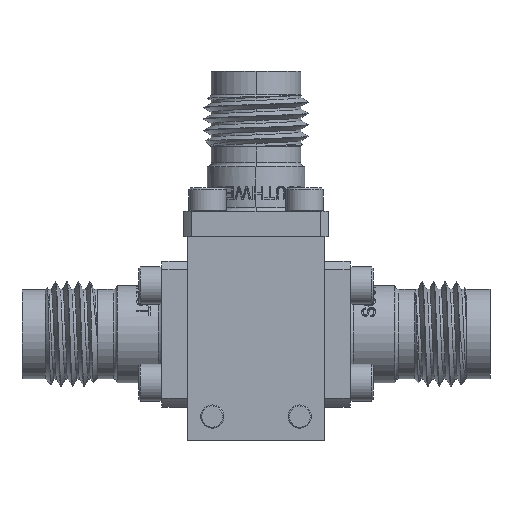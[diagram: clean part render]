
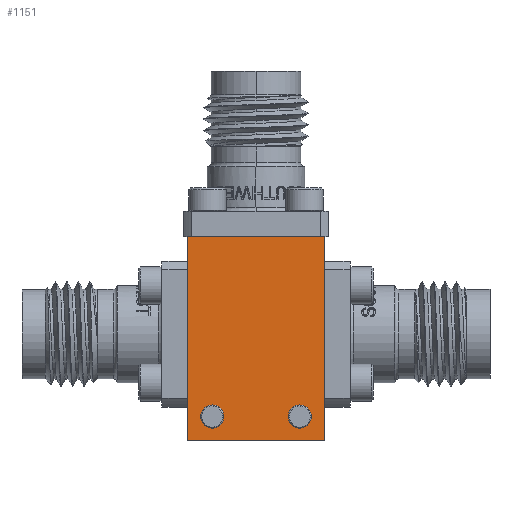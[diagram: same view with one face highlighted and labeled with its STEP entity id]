
A CAD part, front view. The second image highlights one B-rep face of the part: STEP entity #1151.
In plain terms, the highlighted planar face has unit normal (0, -1, 0).
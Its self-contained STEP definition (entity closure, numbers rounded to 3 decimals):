
#117 = LINE ( 'NONE', #969, #2592 ) ;
#231 = DIRECTION ( 'NONE',  ( 0., 1., 0. ) ) ;
#411 = VECTOR ( 'NONE', #7945, 1000. ) ;
#474 = ORIENTED_EDGE ( 'NONE', *, *, #14715, .T. ) ;
#956 = CARTESIAN_POINT ( 'NONE',  ( 7.353, -10.16, -12.516 ) ) ;
#969 = CARTESIAN_POINT ( 'NONE',  ( 0., -10.16, 0. ) ) ;
#1151 = ADVANCED_FACE ( 'NONE', ( #14349, #12983, #13059 ), #14202, .F. ) ;
#1197 = DIRECTION ( 'NONE',  ( 0., 0., 1. ) ) ;
#1275 = CARTESIAN_POINT ( 'NONE',  ( 0., -10.16, 0. ) ) ;
#1290 = CARTESIAN_POINT ( 'NONE',  ( 1.638, -10.16, -11.005 ) ) ;
#1385 = CIRCLE ( 'NONE', #6104, 0.756 ) ;
#1782 = ORIENTED_EDGE ( 'NONE', *, *, #7727, .T. ) ;
#2286 = VERTEX_POINT ( 'NONE', #956 ) ;
#2324 = EDGE_LOOP ( 'NONE', ( #13372, #5478 ) ) ;
#2592 = VECTOR ( 'NONE', #9562, 1000. ) ;
#2930 = VERTEX_POINT ( 'NONE', #8365 ) ;
#3533 = CIRCLE ( 'NONE', #14993, 0.756 ) ;
#3710 = EDGE_CURVE ( 'NONE', #5283, #12833, #9779, .T. ) ;
#4103 = VERTEX_POINT ( 'NONE', #7856 ) ;
#4366 = AXIS2_PLACEMENT_3D ( 'NONE', #12077, #231, #4957 ) ;
#4589 = CARTESIAN_POINT ( 'NONE',  ( 1.638, -10.16, -11.76 ) ) ;
#4957 = DIRECTION ( 'NONE',  ( 0., 0., 1. ) ) ;
#5090 = EDGE_LOOP ( 'NONE', ( #5731, #9114, #474, #13925 ) ) ;
#5283 = VERTEX_POINT ( 'NONE', #6241 ) ;
#5477 = LINE ( 'NONE', #8957, #13335 ) ;
#5478 = ORIENTED_EDGE ( 'NONE', *, *, #14357, .T. ) ;
#5702 = CARTESIAN_POINT ( 'NONE',  ( 7.353, -10.16, -11.76 ) ) ;
#5731 = ORIENTED_EDGE ( 'NONE', *, *, #3710, .F. ) ;
#5773 = VERTEX_POINT ( 'NONE', #1290 ) ;
#6086 = DIRECTION ( 'NONE',  ( 1., 0., 0. ) ) ;
#6104 = AXIS2_PLACEMENT_3D ( 'NONE', #4589, #8380, #10777 ) ;
#6241 = CARTESIAN_POINT ( 'NONE',  ( 0., -10.16, 0. ) ) ;
#6811 = AXIS2_PLACEMENT_3D ( 'NONE', #5702, #10789, #14338 ) ;
#7010 = CARTESIAN_POINT ( 'NONE',  ( 7.353, -10.16, -11.76 ) ) ;
#7201 = CARTESIAN_POINT ( 'NONE',  ( 8.992, -10.16, -13.335 ) ) ;
#7727 = EDGE_CURVE ( 'NONE', #4103, #2286, #3533, .T. ) ;
#7856 = CARTESIAN_POINT ( 'NONE',  ( 7.353, -10.16, -11.005 ) ) ;
#7945 = DIRECTION ( 'NONE',  ( 1., 0., 0. ) ) ;
#8365 = CARTESIAN_POINT ( 'NONE',  ( 0., -10.16, -13.335 ) ) ;
#8380 = DIRECTION ( 'NONE',  ( 0., 1., 0. ) ) ;
#8546 = VERTEX_POINT ( 'NONE', #7201 ) ;
#8865 = EDGE_CURVE ( 'NONE', #2286, #4103, #10317, .T. ) ;
#8957 = CARTESIAN_POINT ( 'NONE',  ( 8.992, -10.16, 0. ) ) ;
#9114 = ORIENTED_EDGE ( 'NONE', *, *, #10646, .T. ) ;
#9562 = DIRECTION ( 'NONE',  ( 0., 0., -1. ) ) ;
#9779 = LINE ( 'NONE', #14566, #13457 ) ;
#10218 = LINE ( 'NONE', #11381, #411 ) ;
#10317 = CIRCLE ( 'NONE', #6811, 0.756 ) ;
#10622 = DIRECTION ( 'NONE',  ( 0., 1., 0. ) ) ;
#10646 = EDGE_CURVE ( 'NONE', #5283, #2930, #117, .T. ) ;
#10777 = DIRECTION ( 'NONE',  ( 0., 0., 1. ) ) ;
#10789 = DIRECTION ( 'NONE',  ( 0., 1., 0. ) ) ;
#11381 = CARTESIAN_POINT ( 'NONE',  ( 0., -10.16, -13.335 ) ) ;
#11455 = EDGE_CURVE ( 'NONE', #5773, #12595, #1385, .T. ) ;
#11666 = AXIS2_PLACEMENT_3D ( 'NONE', #1275, #12906, #1197 ) ;
#12077 = CARTESIAN_POINT ( 'NONE',  ( 1.638, -10.16, -11.76 ) ) ;
#12450 = ORIENTED_EDGE ( 'NONE', *, *, #8865, .T. ) ;
#12595 = VERTEX_POINT ( 'NONE', #12653 ) ;
#12653 = CARTESIAN_POINT ( 'NONE',  ( 1.638, -10.16, -12.516 ) ) ;
#12833 = VERTEX_POINT ( 'NONE', #14034 ) ;
#12860 = CIRCLE ( 'NONE', #4366, 0.756 ) ;
#12906 = DIRECTION ( 'NONE',  ( 0., 1., 0. ) ) ;
#12983 = FACE_BOUND ( 'NONE', #14351, .T. ) ;
#13059 = FACE_OUTER_BOUND ( 'NONE', #5090, .T. ) ;
#13310 = EDGE_CURVE ( 'NONE', #12833, #8546, #5477, .T. ) ;
#13335 = VECTOR ( 'NONE', #13609, 1000. ) ;
#13372 = ORIENTED_EDGE ( 'NONE', *, *, #11455, .T. ) ;
#13457 = VECTOR ( 'NONE', #6086, 1000. ) ;
#13609 = DIRECTION ( 'NONE',  ( 0., 0., -1. ) ) ;
#13925 = ORIENTED_EDGE ( 'NONE', *, *, #13310, .F. ) ;
#14034 = CARTESIAN_POINT ( 'NONE',  ( 8.992, -10.16, 0. ) ) ;
#14202 = PLANE ( 'NONE',  #11666 ) ;
#14338 = DIRECTION ( 'NONE',  ( 0., 0., 1. ) ) ;
#14349 = FACE_BOUND ( 'NONE', #2324, .T. ) ;
#14351 = EDGE_LOOP ( 'NONE', ( #1782, #12450 ) ) ;
#14357 = EDGE_CURVE ( 'NONE', #12595, #5773, #12860, .T. ) ;
#14566 = CARTESIAN_POINT ( 'NONE',  ( 0., -10.16, 0. ) ) ;
#14715 = EDGE_CURVE ( 'NONE', #2930, #8546, #10218, .T. ) ;
#14993 = AXIS2_PLACEMENT_3D ( 'NONE', #7010, #10622, #15019 ) ;
#15019 = DIRECTION ( 'NONE',  ( 0., 0., 1. ) ) ;
